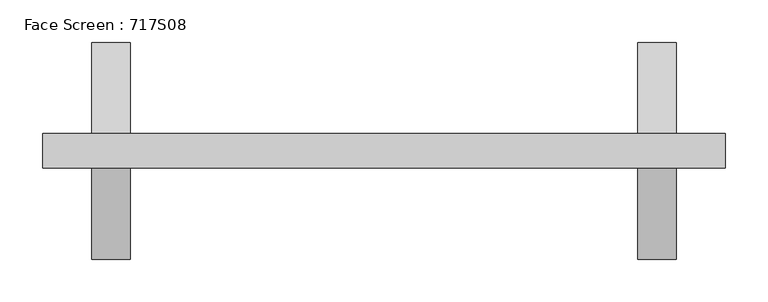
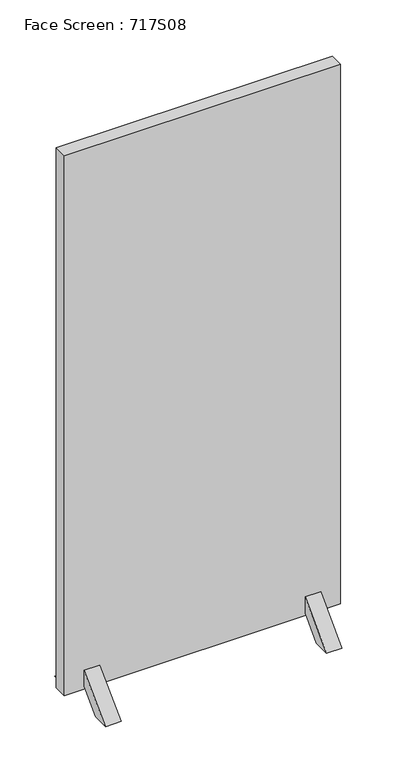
"""IFC4 building model written with IfcOpenShell, lengths in millimetres: furniture geometry, Face Screen : 717S08."""

from ifc_helpers import new_model, si_unit, frame, origin, place, context, project, spatial, polyline, outline, extrude, faceted_brep, source, transform, mapped, element, save


def face_screen_717s08_0329c279(model_context):
    return source(origin(), model_context, "Body", "SolidModel", [
        faceted_brep([(309.0, 20.0, 50.0955899), (309.0, 20.0, 57.4960966), (309.0, 37.6776695, 39.8184271), (309.0, -37.6776695, 39.8184271), (309.0, -20.0, 57.4960966), (309.0, -20.0, 50.0955899), (297.5, -126.9935713, 0.0), (342.5, -126.9935713, 0.0), (342.5, -20.0, 106.9935713), (297.5, -20.0, 106.9935713), (297.5, -77.4960966, 0.0), (342.5, -77.4960966, 0.0), (297.5, -20.0, 57.4960966), (331.0, -37.6776695, 39.8184271), (331.0, -20.0, 57.4960966), (342.5, -20.0, 57.4960966), (331.0, 20.0, 50.0955899), (331.0, -20.0, 50.0955899), (331.0, 37.6776695, 39.8184271), (331.0, 20.0, 57.4960966), (342.5, 20.0, 57.4960966), (342.5, 20.0, 106.9935713), (297.5, 20.0, 106.9935713), (297.5, 20.0, 57.4960966), (297.5, 126.9935713, 0.0), (297.5, 77.4960966, 0.0), (342.5, 77.4960966, 0.0), (342.5, 126.9935713, 0.0)], [[[0, 1, 2, 3, 4, 5]], [[6, 7, 8, 9]], [[10, 11, 7, 6]], [[12, 4, 3, 13, 14, 15, 11, 10]], [[16, 17, 14, 13, 18, 19]], [[5, 17, 16, 0]], [[4, 12, 9, 8, 15, 14, 17, 5]], [[2, 18, 13, 3]], [[0, 16, 19, 20, 21, 22, 23, 1]], [[22, 24, 25, 23]], [[9, 12, 10, 6]], [[21, 20, 26, 27]], [[8, 7, 11, 15]], [[25, 26, 20, 19, 18, 2, 1, 23]], [[24, 27, 26, 25]], [[22, 21, 27, 24]]]),
        faceted_brep([(-309.0, -20.0, 50.0955899), (-309.0, -20.0, 57.4960966), (-309.0, -37.6776695, 39.8184271), (-309.0, 37.6776695, 39.8184271), (-309.0, 20.0, 57.4960966), (-309.0, 20.0, 50.0955899), (-297.5, 126.9935713, 0.0), (-342.5, 126.9935713, 0.0), (-342.5, 20.0, 106.9935713), (-297.5, 20.0, 106.9935713), (-297.5, 77.4960966, 0.0), (-342.5, 77.4960966, 0.0), (-297.5, 20.0, 57.4960966), (-331.0, 37.6776695, 39.8184271), (-331.0, 20.0, 57.4960966), (-342.5, 20.0, 57.4960966), (-331.0, -20.0, 50.0955899), (-331.0, 20.0, 50.0955899), (-331.0, -37.6776695, 39.8184271), (-331.0, -20.0, 57.4960966), (-342.5, -20.0, 57.4960966), (-342.5, -20.0, 106.9935713), (-297.5, -20.0, 106.9935713), (-297.5, -20.0, 57.4960966), (-297.5, -126.9935713, 0.0), (-297.5, -77.4960966, 0.0), (-342.5, -77.4960966, 0.0), (-342.5, -126.9935713, 0.0)], [[[0, 1, 2, 3, 4, 5]], [[6, 7, 8, 9]], [[10, 11, 7, 6]], [[12, 4, 3, 13, 14, 15, 11, 10]], [[16, 17, 14, 13, 18, 19]], [[5, 17, 16, 0]], [[4, 12, 9, 8, 15, 14, 17, 5]], [[2, 18, 13, 3]], [[0, 16, 19, 20, 21, 22, 23, 1]], [[22, 24, 25, 23]], [[9, 12, 10, 6]], [[21, 20, 26, 27]], [[8, 7, 11, 15]], [[25, 26, 20, 19, 18, 2, 1, 23]], [[24, 27, 26, 25]], [[22, 21, 27, 24]]]),
        extrude(outline(polyline([(400.0, 20.0), (400.0, -20.0), (-400.0, -20.0), (-400.0, 20.0), (400.0, 20.0)])), frame((0.0, 0.0, 50.0), z_axis=(0.0, 0.0, 1.0), x_axis=(1.0, 0.0, 0.0)), (0.0, 0.0, 1.0), 1650.0),
    ])


if __name__ == "__main__":
    model = new_model("IFC4")
    model_context = context("Model", 3, world=origin())
    ifc_project = project(units=[si_unit("LENGTHUNIT", "METRE", prefix="MILLI")], contexts=[model_context])
    site = spatial("IfcSite", under=ifc_project)
    building = spatial("IfcBuilding", under=site)
    placement = place(None, origin())
    face_screen_717s08_shape = face_screen_717s08_0329c279(model_context)
    element("IfcFurniture", 1, ObjectType="Face Screen : 717S08", at=placement, inside=building, context=model_context, shape_type="MappedRepresentation", body=[
        mapped(face_screen_717s08_shape, transform((0.0, 0.0, 0.0), x_axis=(1.0, 0.0, 0.0), y_axis=(0.0, 1.0, 0.0), z_axis=(0.0, 0.0, 1.0))),
    ])
    save(model, "model.ifc")
